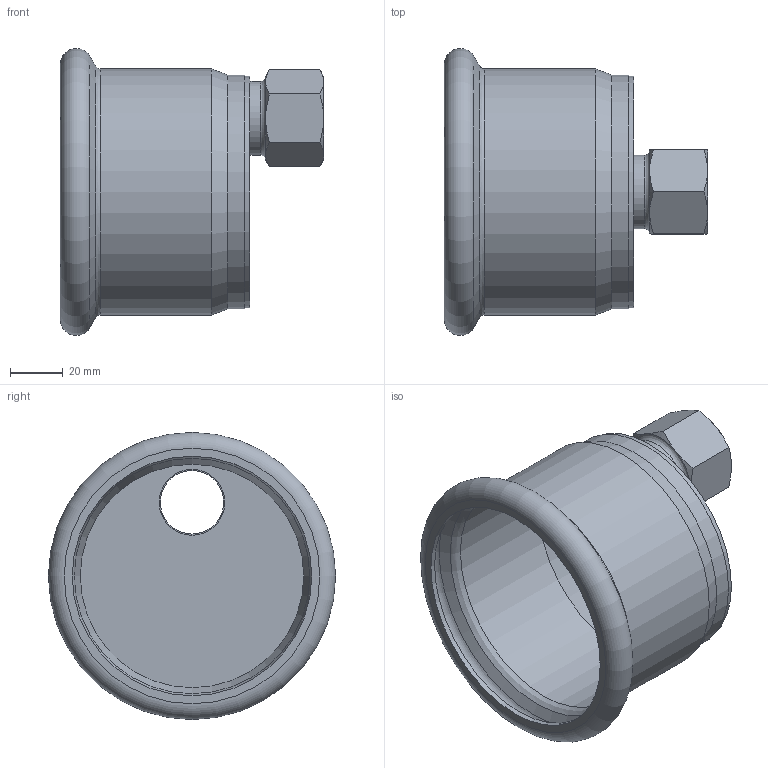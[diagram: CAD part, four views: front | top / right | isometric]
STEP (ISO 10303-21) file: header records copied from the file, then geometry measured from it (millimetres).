
FILE_DESCRIPTION((''),'2;1');
FILE_NAME('G:\Nirosan-Schmiedefeld\Technics\CAD\001 Serie 9.000\089\69301e8934h(1).stp','2018-10-16T11:03:09',('herberg'),(''),'Autodesk Inventor 2009','Autodesk Inventor 2009','');
FILE_SCHEMA(('AUTOMOTIVE_DESIGN { 1 0 10303 214 1 1 1 1 }'));
Length unit declared in the file: millimetre
Products named in the file (4): 69301e8934h(1); 69HM89P(0); 69KAME8934p(1); IG2834(1)
Assembly tree (3 placements, depth 2):
  69301e8934h(1)
    69HM89P(0)
    69KAME8934p(1)
    IG2834(1)
Bounding box: 100 x 109.08 x 109.08 mm (x, y, z)
Volume: 67675.9 mm3; surface area: 65204.2 mm2
Topology: 3 solids, 3 shells, 46 faces, 93 edges, 55 vertices
Faces by surface type: cone 17, plane 13, cylinder 7, bspline 7, torus 2
Full cylindrical faces by diameter (mm): 28 x1, 84.9 x1, 88 x1, 88.9 x1, 89.5 x1, 91 x1, 93.5 x1
Entity records: 1318 total; most frequent: CARTESIAN_POINT 407, DIRECTION 176, ORIENTED_EDGE 138, AXIS2_PLACEMENT_3D 85, EDGE_LOOP 74, EDGE_CURVE 69, VERTEX_POINT 51, FACE_OUTER_BOUND 46
